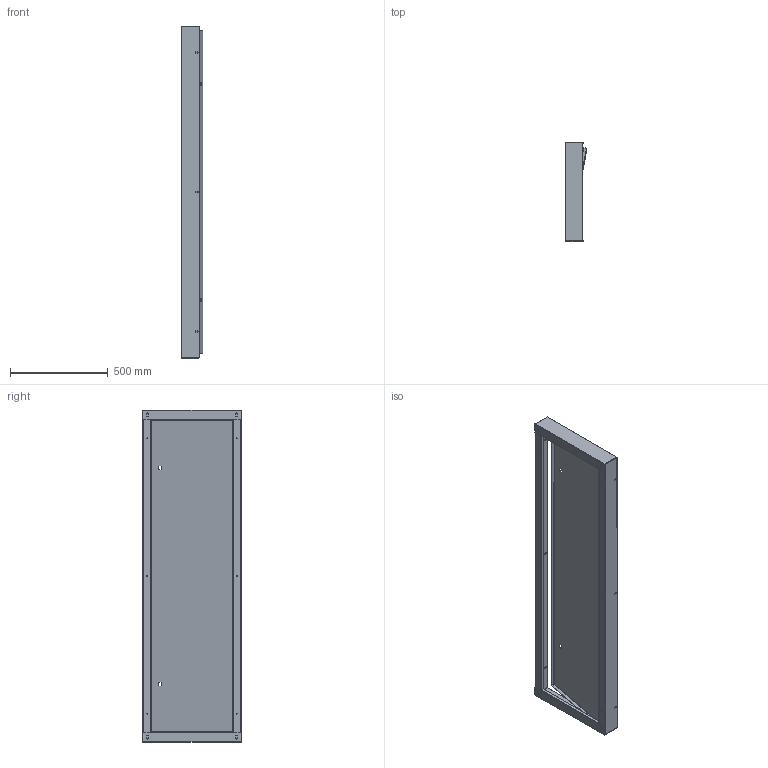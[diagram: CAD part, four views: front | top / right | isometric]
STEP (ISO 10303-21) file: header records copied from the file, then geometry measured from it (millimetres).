
FILE_DESCRIPTION (( 'STEP AP203' ), '1' );
FILE_NAME ('Äâåðü_Âíóòðåííÿÿ_OptiboxM-1800x600IP44(259256)ÂÑáîðå.STEP', '2018-07-16T10:27:34', ( '' ), ( '' ), 'SwSTEP 2.0', 'SolidWorks 2018', '' );
FILE_SCHEMA (( 'CONFIG_CONTROL_DESIGN' ));
Length unit declared in the file: millimetre
Products named in the file (7): Äëèííàÿ1800; 栺鍣罻1800x600; Ïåòëÿ2; Êîðîòêàÿ600; Äâåðü_Âíóòðåííÿÿ_OptiboxM-1800x600IP44(259256); Äâåðü_Âíóòðåííÿÿ_OptiboxM-1800x600IP44(259256)ÂÑáîðå; ïåòëÿ äëÿ âíåøíåé äâåðè
Assembly tree (12 placements, depth 3):
  Äâåðü_Âíóòðåííÿÿ_OptiboxM-1800x600IP44(259256)ÂÑáîðå
    栺鍣罻1800x600
      Äëèííàÿ1800  x2
      Êîðîòêàÿ600  x2
    Äâåðü_Âíóòðåííÿÿ_OptiboxM-1800x600IP44(259256)
    ïåòëÿ äëÿ âíåøíåé äâåðè  x3
    Ïåòëÿ2  x3
Bounding box: 111.91 x 504 x 1694 mm (x, y, z)
Volume: 2944894.9 mm3; surface area: 2970978.8 mm2
Topology: 11 solids, 11 shells, 405 faces, 1004 edges, 624 vertices
Faces by surface type: plane 276, cylinder 121, bspline 8
Entity records: 7727 total; most frequent: CARTESIAN_POINT 1525, DIRECTION 1096, ORIENTED_EDGE 1088, EDGE_CURVE 544, LINE 398, VECTOR 398, AXIS2_PLACEMENT_3D 349, VERTEX_POINT 332
